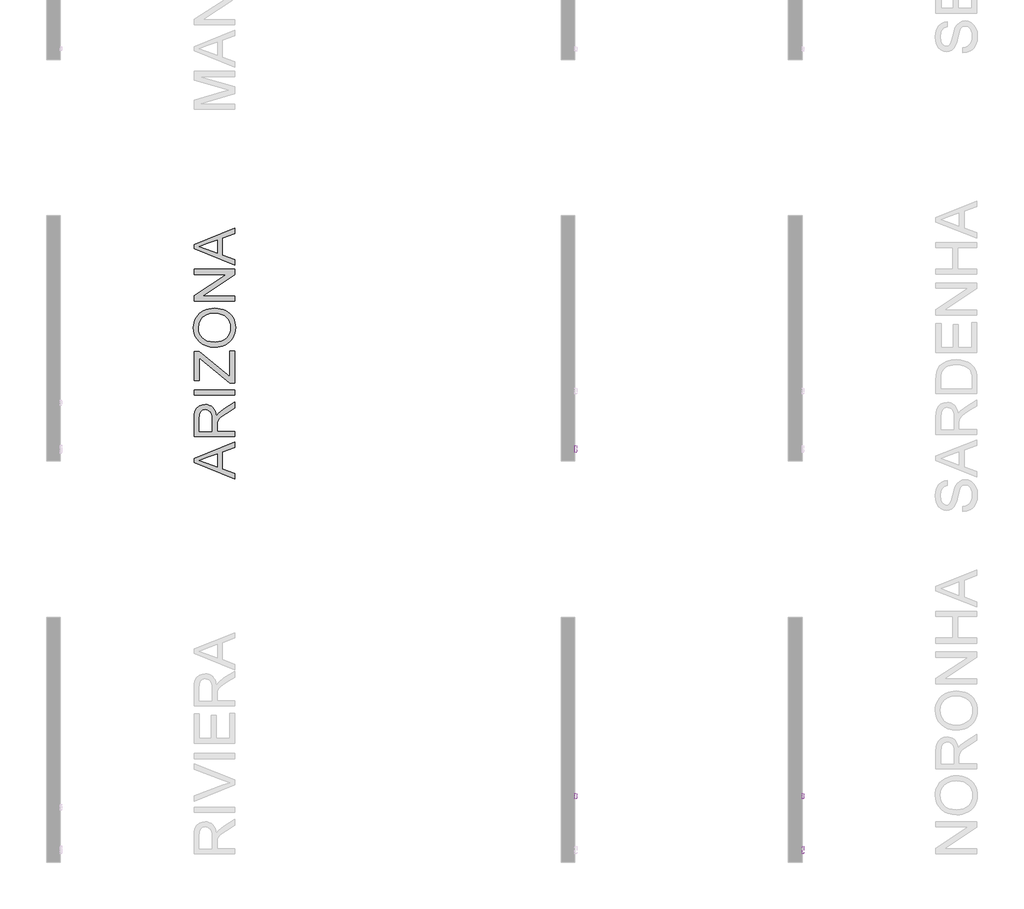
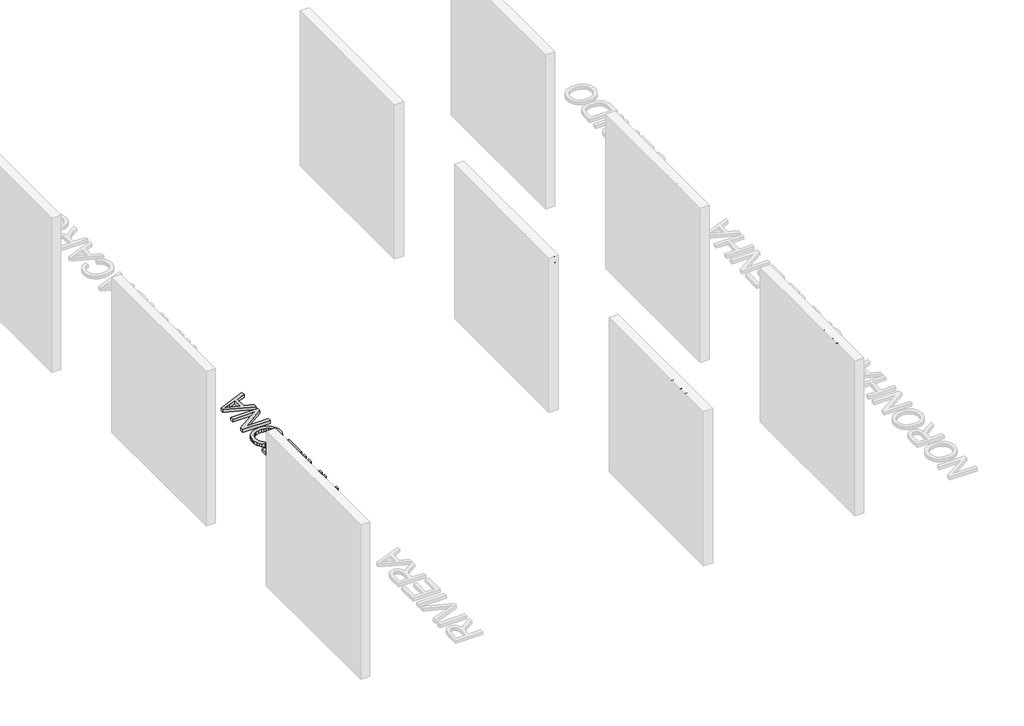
# One storey, part 4 of 11: 5 proxies.
"""IFC4 building model written with IfcOpenShell, lengths in millimetres."""

from ifc_helpers import new_model, si_unit, frame, origin, origin_with_axes, place, context, project, spatial, polyline, outline, extrude, element, save

model = new_model("IFC4")

# Units and contexts
model_context = context("Model", 3, world=origin())
ifc_project = project(units=[si_unit("LENGTHUNIT", "METRE", prefix="MILLI")], contexts=[model_context])

# Site, building, storey
site = spatial("IfcSite", under=ifc_project)
building = spatial("IfcBuilding", under=site)
storey = spatial("IfcBuildingStorey", under=building, Name="PORTOBELLO - SHOWROOM", Elevation=0.0)

# Proxies
placement = place(None, origin())
element("IfcBuildingElementProxy", 1, Name="10mm Arial", ObjectType="10mm Arial", at=placement, inside=storey, context=model_context, shape_type="SweptSolid", body=[
    extrude(outline(polyline([(-7180.0509159, 2478.2261649), (-7180.0509159, 2578.6824751), (-7166.6109603, 2578.6824751), (-7114.1264623, 2499.0973368), (-7114.1264623, 2578.6824751), (-7101.5694236, 2578.6824751), (-7101.5694236, 2478.2261649), (-7115.0093791, 2478.2261649), (-7167.4938771, 2557.8358287), (-7167.4938771, 2478.2261649), (-7180.0509159, 2478.2261649)])), frame((-16783.2092306, 0.0, 0.0), z_axis=(1.0, 0.0, 0.0), x_axis=(0.0, 1.0, 0.0)), (0.0, 0.0, 1.0), 20.0),
    extrude(outline(polyline([(-7084.3034953, 2515.1124663), (-7081.5872999, 2532.8995608), (-7073.4387137, 2545.4014173), (-7063.3710097, 2551.5266525), (-7051.316743, 2553.5683975), (-7038.1251078, 2551.0821284), (-7027.5883543, 2543.6233209), (-7020.6813699, 2531.7805864), (-7018.3790417, 2516.1425359), (-7022.4502691, 2493.7998361), (-7034.3083321, 2481.1569582), (-7051.316743, 2476.6565351), (-7064.6677938, 2479.1336072), (-7075.1922845, 2486.5648235), (-7082.0256926, 2498.6558784), (-7084.3034953, 2515.1124663)]), holes=[polyline([(-7071.7464565, 2515.1369918), (-7070.2933226, 2503.7725038), (-7065.933921, 2495.6760342), (-7059.3733587, 2490.829189), (-7051.316743, 2489.2135739), (-7043.2969155, 2490.838386), (-7036.748616, 2495.7128224), (-7032.3892144, 2503.9165909), (-7030.9360805, 2515.5293992), (-7032.3984114, 2526.5627934), (-7036.7854042, 2534.5488984), (-7043.3429008, 2539.3957437), (-7051.316743, 2541.0113588), (-7059.3733587, 2539.401875), (-7065.933921, 2534.5734239), (-7070.2933226, 2526.4953484), (-7071.7464565, 2515.1369918)])]), frame((-16783.2092306, 0.0, 0.0), z_axis=(1.0, 0.0, 0.0), x_axis=(0.0, 1.0, 0.0)), (0.0, 0.0, 1.0), 20.0),
    extrude(outline(polyline([(-7004.2523731, 2478.2261649), (-7004.2523731, 2551.9987677), (-6993.2649642, 2551.9987677), (-6993.2649642, 2541.0849352), (-6985.4658659, 2551.1403764), (-6977.6177167, 2553.5683975), (-6965.011627, 2549.6933739), (-6969.2054817, 2538.4361848), (-6978.0346496, 2541.0113588), (-6985.1347721, 2538.5342867), (-6989.6597206, 2531.6671561), (-6991.6953343, 2517.0009272), (-6991.6953343, 2478.2261649), (-7004.2523731, 2478.2261649)])), frame((-16783.2092306, 0.0, 0.0), z_axis=(1.0, 0.0, 0.0), x_axis=(0.0, 1.0, 0.0)), (0.0, 0.0, 1.0), 20.0),
    extrude(outline(polyline([(-6960.3027374, 2515.1124663), (-6957.586542, 2532.8995608), (-6949.4379558, 2545.4014173), (-6939.3702519, 2551.5266525), (-6927.3159852, 2553.5683975), (-6914.12435, 2551.0821284), (-6903.5875965, 2543.6233209), (-6896.680612, 2531.7805864), (-6894.3782839, 2516.1425359), (-6898.4495113, 2493.7998361), (-6910.3075743, 2481.1569582), (-6927.3159852, 2476.6565351), (-6940.6670359, 2479.1336072), (-6951.1915267, 2486.5648235), (-6958.0249347, 2498.6558784), (-6960.3027374, 2515.1124663)]), holes=[polyline([(-6947.7456987, 2515.1369918), (-6946.2925648, 2503.7725038), (-6941.9331631, 2495.6760342), (-6935.3726009, 2490.829189), (-6927.3159852, 2489.2135739), (-6919.2961577, 2490.838386), (-6912.7478582, 2495.7128224), (-6908.3884565, 2503.9165909), (-6906.9353227, 2515.5293992), (-6908.3976536, 2526.5627934), (-6912.7846464, 2534.5488984), (-6919.3421429, 2539.3957437), (-6927.3159852, 2541.0113588), (-6935.3726009, 2539.401875), (-6941.9331631, 2534.5734239), (-6946.2925648, 2526.4953484), (-6947.7456987, 2515.1369918)])]), frame((-16783.2092306, 0.0, 0.0), z_axis=(1.0, 0.0, 0.0), x_axis=(0.0, 1.0, 0.0)), (0.0, 0.0, 1.0), 20.0),
    extrude(outline(polyline([(-6880.2516153, 2478.2261649), (-6880.2516153, 2551.9987677), (-6867.6945765, 2551.9987677), (-6867.6945765, 2541.6980718), (-6858.0928564, 2550.6008161), (-6844.9839947, 2553.5683975), (-6833.1259317, 2551.1771646), (-6825.0325278, 2544.8986452), (-6821.2678687, 2535.6648071), (-6820.6056811, 2523.5247013), (-6820.6056811, 2478.2261649), (-6833.1627199, 2478.2261649), (-6833.1627199, 2521.8324441), (-6834.6097224, 2532.9424804), (-6839.7232821, 2538.8163295), (-6848.3439836, 2541.0113588), (-6861.9678801, 2536.08174), (-6866.2629024, 2528.938698), (-6867.6945765, 2517.3688092), (-6867.6945765, 2478.2261649), (-6880.2516153, 2478.2261649)])), frame((-16783.2092306, 0.0, 0.0), z_axis=(1.0, 0.0, 0.0), x_axis=(0.0, 1.0, 0.0)), (0.0, 0.0, 1.0), 20.0),
    extrude(outline(polyline([(-6803.3397528, 2478.2261649), (-6803.3397528, 2578.6824751), (-6790.782714, 2578.6824751), (-6790.782714, 2541.7471228), (-6780.9909216, 2550.6130789), (-6768.9305235, 2553.5683975), (-6754.8283804, 2550.3432987), (-6746.2689926, 2541.4282917), (-6743.6938187, 2524.9226529), (-6743.6938187, 2478.2261649), (-6756.2508574, 2478.2261649), (-6756.2508574, 2523.6228031), (-6760.2485084, 2536.866555), (-6771.5792739, 2541.0113588), (-6781.867707, 2538.2154556), (-6788.7348376, 2530.6370865), (-6790.782714, 2517.4178602), (-6790.782714, 2478.2261649), (-6803.3397528, 2478.2261649)])), frame((-16783.2092306, 0.0, 0.0), z_axis=(1.0, 0.0, 0.0), x_axis=(0.0, 1.0, 0.0)), (0.0, 0.0, 1.0), 20.0),
    extrude(outline(polyline([(-6679.338995, 2487.643944), (-6691.515889, 2479.1336072), (-6704.9681073, 2476.6565351), (-6715.4619412, 2478.1464572), (-6723.2027915, 2482.6162234), (-6727.9760604, 2489.4036462), (-6729.5671501, 2497.846538), (-6727.1636544, 2507.7793519), (-6720.8483468, 2514.989839), (-6712.0559671, 2519.1101173), (-6701.1911855, 2520.9985782), (-6679.4125714, 2525.3150603), (-6679.338995, 2528.1109635), (-6682.7970857, 2537.3815898), (-6696.6784997, 2541.0113588), (-6709.3826912, 2538.5956003), (-6715.4404814, 2530.0239499), (-6727.9975202, 2531.5935797), (-6722.5651294, 2543.8563129), (-6711.6267714, 2551.0422745), (-6695.0598189, 2553.5683975), (-6679.841767, 2551.3365801), (-6671.2455911, 2545.732511), (-6667.3950929, 2537.2099115), (-6666.7819562, 2526.2225026), (-6666.7819562, 2510.5997805), (-6666.1442941, 2488.7843782), (-6663.6426965, 2478.2261649), (-6676.1997353, 2478.2261649), (-6679.338995, 2487.643944)]), holes=[polyline([(-6679.338995, 2512.7580215), (-6699.5970302, 2508.9075233), (-6710.4004981, 2506.8719096), (-6715.2933286, 2503.5609717), (-6717.0101113, 2498.7294548), (-6713.2699777, 2491.9359006), (-6702.2948315, 2489.2135739), (-6689.5906399, 2492.2179435), (-6681.3991342, 2499.4897443), (-6679.4125714, 2509.2018289), (-6679.338995, 2512.7580215)])]), frame((-16783.2092306, 0.0, 0.0), z_axis=(1.0, 0.0, 0.0), x_axis=(0.0, 1.0, 0.0)), (0.0, 0.0, 1.0), 20.0),
])
element("IfcBuildingElementProxy", 2, Name="10mm Arial", ObjectType="10mm Arial", at=placement, inside=storey, context=model_context, shape_type="SweptSolid", body=[
    extrude(outline(polyline([(-2764.7598054, 2512.7580215), (-2752.2027666, 2512.7580215), (-2748.1560647, 2500.18872), (-2738.2723018, 2492.242469), (-2723.2136654, 2489.2135739), (-2710.0925409, 2491.506705), (-2701.6189923, 2497.8097498), (-2698.8353519, 2506.2342475), (-2700.9200165, 2514.070134), (-2709.4548788, 2519.7723049), (-2727.738614, 2524.5670336), (-2747.4203007, 2530.7597138), (-2758.1011413, 2540.1039165), (-2761.6205457, 2552.5873789), (-2757.2672754, 2566.7998866), (-2744.5508211, 2576.8308024), (-2725.9359922, 2580.2521049), (-2706.0703645, 2576.6713868), (-2692.8266126, 2566.1499618), (-2687.847943, 2550.4291379), (-2700.4049817, 2550.4291379), (-2702.7103756, 2557.9216678), (-2707.517367, 2563.3295332), (-2725.4454829, 2567.6950662), (-2743.4226497, 2563.3785841), (-2749.063507, 2552.9552609), (-2745.0658559, 2544.2487203), (-2724.5625661, 2537.234437), (-2702.3424936, 2530.9313921), (-2690.190125, 2520.7533236), (-2686.2783131, 2506.5530786), (-2690.7787362, 2491.5312304), (-2703.7281824, 2480.568347), (-2722.7231561, 2476.6565351), (-2745.1516951, 2480.8749153), (-2759.3396774, 2493.5791069), (-2764.7598054, 2512.7580215)])), frame((-19283.2092306, 0.0, 0.0), z_axis=(1.0, 0.0, 0.0), x_axis=(0.0, 1.0, 0.0)), (0.0, 0.0, 1.0), 20.0),
    extrude(outline(polyline([(-2621.9234894, 2487.643944), (-2634.1003835, 2479.1336072), (-2647.5526018, 2476.6565351), (-2658.0464357, 2478.1464572), (-2665.787286, 2482.6162234), (-2670.5605549, 2489.4036462), (-2672.1516445, 2497.846538), (-2669.7481488, 2507.7793519), (-2663.4328412, 2514.989839), (-2654.6404615, 2519.1101173), (-2643.7756799, 2520.9985782), (-2621.9970658, 2525.3150603), (-2621.9234894, 2528.1109635), (-2625.3815802, 2537.3815898), (-2639.2629941, 2541.0113588), (-2651.9671857, 2538.5956003), (-2658.0249759, 2530.0239499), (-2670.5820147, 2531.5935797), (-2665.1496239, 2543.8563129), (-2654.2112659, 2551.0422745), (-2637.6443134, 2553.5683975), (-2622.4262615, 2551.3365801), (-2613.8300855, 2545.732511), (-2609.9795873, 2537.2099115), (-2609.3664507, 2526.2225026), (-2609.3664507, 2510.5997805), (-2608.7287885, 2488.7843782), (-2606.227191, 2478.2261649), (-2618.7842297, 2478.2261649), (-2621.9234894, 2487.643944)]), holes=[polyline([(-2621.9234894, 2512.7580215), (-2642.1815246, 2508.9075233), (-2652.9849925, 2506.8719096), (-2657.8778231, 2503.5609717), (-2659.5946057, 2498.7294548), (-2655.8544721, 2491.9359006), (-2644.8793259, 2489.2135739), (-2632.1751344, 2492.2179435), (-2623.9836286, 2499.4897443), (-2621.9970658, 2509.2018289), (-2621.9234894, 2512.7580215)])]), frame((-19283.2092306, 0.0, 0.0), z_axis=(1.0, 0.0, 0.0), x_axis=(0.0, 1.0, 0.0)), (0.0, 0.0, 1.0), 20.0),
    extrude(outline(polyline([(-2592.1005223, 2478.2261649), (-2592.1005223, 2551.9987677), (-2581.1131134, 2551.9987677), (-2581.1131134, 2541.0849352), (-2573.3140151, 2551.1403764), (-2565.4658659, 2553.5683975), (-2552.8597762, 2549.6933739), (-2557.0536309, 2538.4361848), (-2565.8827988, 2541.0113588), (-2572.9829213, 2538.5342867), (-2577.5078699, 2531.6671561), (-2579.5434836, 2517.0009272), (-2579.5434836, 2478.2261649), (-2592.1005223, 2478.2261649)])), frame((-19283.2092306, 0.0, 0.0), z_axis=(1.0, 0.0, 0.0), x_axis=(0.0, 1.0, 0.0)), (0.0, 0.0, 1.0), 20.0),
    extrude(outline(polyline([(-2499.4923614, 2478.2261649), (-2499.4923614, 2490.0719652), (-2507.8003632, 2480.0103926), (-2519.2844128, 2476.6565351), (-2534.8335584, 2481.5125774), (-2545.8209674, 2495.0628976), (-2549.7205165, 2515.0388899), (-2546.1275357, 2535.027145), (-2535.360856, 2548.7859316), (-2519.3334637, 2553.5683975), (-2507.7574436, 2550.147095), (-2499.4923614, 2541.2566134), (-2499.4923614, 2578.6824751), (-2486.9353227, 2578.6824751), (-2486.9353227, 2478.2261649), (-2499.4923614, 2478.2261649)]), holes=[polyline([(-2537.1634777, 2515.0879409), (-2535.7471321, 2503.7295842), (-2531.498095, 2495.6515088), (-2525.3238089, 2490.8230576), (-2518.1317159, 2489.2135739), (-2510.9426885, 2490.7494812), (-2504.9247522, 2495.3572032), (-2500.8504591, 2503.122579), (-2499.4923614, 2514.1314477), (-2500.8749846, 2526.1673203), (-2505.0228541, 2534.5121102), (-2511.1940746, 2539.3865466), (-2518.6467506, 2541.0113588), (-2525.91242, 2539.450926), (-2531.865977, 2534.7696276), (-2535.8391026, 2526.7283403), (-2537.1634777, 2515.0879409)])]), frame((-19283.2092306, 0.0, 0.0), z_axis=(1.0, 0.0, 0.0), x_axis=(0.0, 1.0, 0.0)), (0.0, 0.0, 1.0), 20.0),
    extrude(outline(polyline([(-2416.4491324, 2500.2009828), (-2404.1373483, 2498.6313529), (-2408.573392, 2489.3545953), (-2415.6520547, 2482.4200197), (-2425.2139209, 2478.0974062), (-2437.099575, 2476.6565351), (-2451.833249, 2479.1428042), (-2463.1701458, 2486.6016117), (-2470.399027, 2498.5485795), (-2472.808654, 2514.4993297), (-2470.3745015, 2530.9865744), (-2463.0720439, 2543.3167526), (-2451.8884313, 2551.0054863), (-2437.8108136, 2553.5683975), (-2424.1715886, 2551.0116177), (-2413.2730845, 2543.3412781), (-2406.1269767, 2531.0356253), (-2403.7449408, 2514.5729061), (-2403.8185172, 2511.1883917), (-2460.2516153, 2511.1883917), (-2458.0780458, 2501.7890067), (-2453.0288654, 2494.8789566), (-2445.7417363, 2490.6299195), (-2436.8543204, 2489.2135739), (-2424.5425363, 2491.8377988), (-2416.4491324, 2500.2009828)]), holes=[polyline([(-2460.2516153, 2523.7454305), (-2416.3019796, 2523.7454305), (-2421.3297002, 2535.1252469), (-2428.6505519, 2539.5398308), (-2437.8598645, 2541.0113588), (-2453.323171, 2536.314732), (-2458.1884104, 2530.8240932), (-2460.2516153, 2523.7454305)])]), frame((-19283.2092306, 0.0, 0.0), z_axis=(1.0, 0.0, 0.0), x_axis=(0.0, 1.0, 0.0)), (0.0, 0.0, 1.0), 20.0),
    extrude(outline(polyline([(-2391.187902, 2478.2261649), (-2391.187902, 2551.9987677), (-2378.6308633, 2551.9987677), (-2378.6308633, 2541.6980718), (-2369.0291432, 2550.6008161), (-2355.9202814, 2553.5683975), (-2344.0622185, 2551.1771646), (-2335.9688146, 2544.8986452), (-2332.2041555, 2535.6648071), (-2331.5419679, 2523.5247013), (-2331.5419679, 2478.2261649), (-2344.0990067, 2478.2261649), (-2344.0990067, 2521.8324441), (-2345.5460092, 2532.9424804), (-2350.6595689, 2538.8163295), (-2359.2802703, 2541.0113588), (-2372.9041669, 2536.08174), (-2377.1991892, 2528.938698), (-2378.6308633, 2517.3688092), (-2378.6308633, 2478.2261649), (-2391.187902, 2478.2261649)])), frame((-19283.2092306, 0.0, 0.0), z_axis=(1.0, 0.0, 0.0), x_axis=(0.0, 1.0, 0.0)), (0.0, 0.0, 1.0), 20.0),
    extrude(outline(polyline([(-2314.2760396, 2478.2261649), (-2314.2760396, 2578.6824751), (-2301.7190008, 2578.6824751), (-2301.7190008, 2541.7471228), (-2291.9272084, 2550.6130789), (-2279.8668103, 2553.5683975), (-2265.7646672, 2550.3432987), (-2257.2052794, 2541.4282917), (-2254.6301054, 2524.9226529), (-2254.6301054, 2478.2261649), (-2267.1871442, 2478.2261649), (-2267.1871442, 2523.6228031), (-2271.1847952, 2536.866555), (-2282.5155607, 2541.0113588), (-2292.8039938, 2538.2154556), (-2299.6711244, 2530.6370865), (-2301.7190008, 2517.4178602), (-2301.7190008, 2478.2261649), (-2314.2760396, 2478.2261649)])), frame((-19283.2092306, 0.0, 0.0), z_axis=(1.0, 0.0, 0.0), x_axis=(0.0, 1.0, 0.0)), (0.0, 0.0, 1.0), 20.0),
    extrude(outline(polyline([(-2190.2752817, 2487.643944), (-2202.4521758, 2479.1336072), (-2215.9043941, 2476.6565351), (-2226.398228, 2478.1464572), (-2234.1390783, 2482.6162234), (-2238.9123472, 2489.4036462), (-2240.5034368, 2497.846538), (-2238.0999411, 2507.7793519), (-2231.7846335, 2514.989839), (-2222.9922539, 2519.1101173), (-2212.1274723, 2520.9985782), (-2190.3488581, 2525.3150603), (-2190.2752817, 2528.1109635), (-2193.7333725, 2537.3815898), (-2207.6147865, 2541.0113588), (-2220.318978, 2538.5956003), (-2226.3767682, 2530.0239499), (-2238.933807, 2531.5935797), (-2233.5014162, 2543.8563129), (-2222.5630582, 2551.0422745), (-2205.9961057, 2553.5683975), (-2190.7780538, 2551.3365801), (-2182.1818779, 2545.732511), (-2178.3313796, 2537.2099115), (-2177.718243, 2526.2225026), (-2177.718243, 2510.5997805), (-2177.0805809, 2488.7843782), (-2174.5789833, 2478.2261649), (-2187.1360221, 2478.2261649), (-2190.2752817, 2487.643944)]), holes=[polyline([(-2190.2752817, 2512.7580215), (-2210.533317, 2508.9075233), (-2221.3367849, 2506.8719096), (-2226.2296154, 2503.5609717), (-2227.9463981, 2498.7294548), (-2224.2062644, 2491.9359006), (-2213.2311182, 2489.2135739), (-2200.5269267, 2492.2179435), (-2192.3354209, 2499.4897443), (-2190.3488581, 2509.2018289), (-2190.2752817, 2512.7580215)])]), frame((-19283.2092306, 0.0, 0.0), z_axis=(1.0, 0.0, 0.0), x_axis=(0.0, 1.0, 0.0)), (0.0, 0.0, 1.0), 20.0),
])
element("IfcBuildingElementProxy", 3, Name="10mm Arial Narrow", ObjectType="10mm Arial Narrow", at=placement, inside=storey, context=model_context, shape_type="SweptSolid", body=[
    extrude(outline(polyline([(-6577.9158568, 2478.2261649), (-6577.9158568, 2578.9447687), (-6546.6189721, 2578.9447687), (-6530.3232706, 2577.066448), (-6518.8502844, 2567.5860048), (-6514.560606, 2550.566896), (-6516.3469144, 2538.4910704), (-6521.7058396, 2528.8646766), (-6531.4496284, 2522.5634182), (-6546.3905277, 2520.4629988), (-6568.1688951, 2520.4629988), (-6568.1688951, 2478.2261649), (-6577.9158568, 2478.2261649)]), holes=[polyline([(-6568.1688951, 2531.834454), (-6545.1975402, 2531.834454), (-6529.3333448, 2536.3652682), (-6524.3075677, 2550.033859), (-6526.7823821, 2560.1996354), (-6532.760011, 2565.9995852), (-6545.4259846, 2567.5733134), (-6568.1688951, 2567.5733134), (-6568.1688951, 2531.834454)])]), frame((-16783.2092306, 0.0, 0.0), z_axis=(1.0, 0.0, 0.0), x_axis=(0.0, 1.0, 0.0)), (0.0, 0.0, 1.0), 20.0),
    extrude(outline(polyline([(-6506.438138, 2514.7772711), (-6504.4836691, 2531.3680467), (-6498.6202625, 2543.3201315), (-6489.7616958, 2550.5446861), (-6478.8217466, 2552.9528709), (-6468.008711, 2550.5446861), (-6459.1247616, 2543.3201315), (-6453.1852068, 2531.558417), (-6451.2053553, 2515.5387525), (-6453.1503056, 2498.3768659), (-6458.9851567, 2486.2344108), (-6467.8342049, 2479.0098562), (-6478.8217466, 2476.6016713), (-6489.6823748, 2479.0162019), (-6498.5568057, 2486.2597935), (-6504.4678049, 2498.218224), (-6506.438138, 2514.7772711)]), holes=[polyline([(-6496.6911763, 2514.8026538), (-6495.3871394, 2502.2509024), (-6491.4750289, 2493.3796444), (-6485.6338321, 2488.1063858), (-6478.5425368, 2486.348633), (-6471.8224636, 2488.12225), (-6466.1303903, 2493.4431012), (-6462.2468353, 2502.3302234), (-6460.9523169, 2514.8026538), (-6462.2563538, 2527.3163312), (-6466.1684644, 2536.1748979), (-6472.0096611, 2541.4481564), (-6479.1009565, 2543.2059093), (-6485.8686222, 2541.4386379), (-6491.551177, 2536.1368238), (-6495.4061765, 2527.2687386), (-6496.6911763, 2514.8026538)])]), frame((-16783.2092306, 0.0, 0.0), z_axis=(1.0, 0.0, 0.0), x_axis=(0.0, 1.0, 0.0)), (0.0, 0.0, 1.0), 20.0),
    extrude(outline(polyline([(-6379.7276365, 2486.348633), (-6378.1031429, 2476.6016713), (-6385.4641295, 2476.6016713), (-6393.7388938, 2478.7211278), (-6398.053955, 2484.5210777), (-6399.2215598, 2499.1669029), (-6399.2215598, 2541.5814157), (-6407.3440278, 2541.5814157), (-6407.3440278, 2544.8304029), (-6408.9685214, 2539.9569221), (-6416.5325698, 2541.5814157), (-6422.6117295, 2539.2588975), (-6426.4825932, 2532.7736144), (-6428.4624447, 2517.3663078), (-6428.4624447, 2478.2261649), (-6438.2094064, 2478.2261649), (-6438.2094064, 2551.3283773), (-6428.4624447, 2551.3283773), (-6428.4624447, 2541.6321811), (-6422.2182974, 2550.7191922), (-6415.8218538, 2552.9528709), (-6407.3440278, 2551.3283773), (-6399.2215598, 2551.3283773), (-6399.2215598, 2567.5733134), (-6389.4745981, 2575.6957815), (-6389.4745981, 2551.3283773), (-6379.7276365, 2551.3283773), (-6379.7276365, 2541.5814157), (-6389.4745981, 2541.5814157), (-6389.4745981, 2496.9332241), (-6388.6115859, 2488.9376697), (-6383.9919322, 2486.348633), (-6379.7276365, 2486.348633)])), frame((-16783.2092306, 0.0, 0.0), z_axis=(1.0, 0.0, 0.0), x_axis=(0.0, 1.0, 0.0)), (0.0, 0.0, 1.0), 20.0),
    extrude(outline(polyline([(-6373.229662, 2514.7772711), (-6371.2751932, 2531.3680467), (-6365.4117865, 2543.3201315), (-6356.5532198, 2550.5446861), (-6345.6132707, 2552.9528709), (-6334.8002351, 2550.5446861), (-6325.9162857, 2543.3201315), (-6319.9767309, 2531.558417), (-6317.9968793, 2515.5387525), (-6319.9418297, 2498.3768659), (-6325.7766808, 2486.2344108), (-6334.6257289, 2479.0098562), (-6345.6132707, 2476.6016713), (-6356.4738989, 2479.0162019), (-6365.3483298, 2486.2597935), (-6371.259329, 2498.218224), (-6373.229662, 2514.7772711)]), holes=[polyline([(-6363.4827004, 2514.8026538), (-6362.1786635, 2502.2509024), (-6358.2665529, 2493.3796444), (-6352.4253562, 2488.1063858), (-6345.3340608, 2486.348633), (-6338.6139877, 2488.12225), (-6332.9219144, 2493.4431012), (-6329.0383593, 2502.3302234), (-6327.743841, 2514.8026538), (-6329.0478778, 2527.3163312), (-6332.9599884, 2536.1748979), (-6338.8011852, 2541.4481564), (-6345.8924805, 2543.2059093), (-6352.6601463, 2541.4386379), (-6358.3427011, 2536.1368238), (-6362.1977006, 2527.2687386), (-6363.4827004, 2514.8026538)])]), frame((-16783.2092306, 0.0, 0.0), z_axis=(1.0, 0.0, 0.0), x_axis=(0.0, 1.0, 0.0)), (0.0, 0.0, 1.0), 20.0),
    extrude(outline(polyline([(-6295.2539688, 2478.2261649), (-6305.0009305, 2478.2261649), (-6305.0009305, 2578.9447687), (-6295.2539688, 2578.9447687), (-6295.2539688, 2543.5358846), (-6287.8549081, 2550.6176614), (-6278.6536747, 2552.9528709), (-6265.7719481, 2548.752032), (-6256.4945666, 2536.0226016), (-6253.017135, 2515.3356908), (-6254.949394, 2498.8813473), (-6260.746171, 2486.6786082), (-6269.1192933, 2479.1209056), (-6278.7805883, 2476.6016713), (-6288.1214266, 2479.2160907), (-6295.2539688, 2486.9832008), (-6295.2539688, 2478.2261649)]), holes=[polyline([(-6295.2539688, 2515.3356908), (-6293.1725864, 2498.0881376), (-6287.283797, 2489.3564844), (-6278.8313537, 2486.348633), (-6272.8886261, 2488.1381142), (-6267.6502688, 2493.5065579), (-6262.7640966, 2514.9295674), (-6267.4725898, 2536.3652682), (-6272.7172928, 2541.495749), (-6279.0344154, 2543.2059093), (-6285.0120443, 2541.416428), (-6290.3043398, 2536.0479843), (-6295.2539688, 2515.3356908)])]), frame((-16783.2092306, 0.0, 0.0), z_axis=(1.0, 0.0, 0.0), x_axis=(0.0, 1.0, 0.0)), (0.0, 0.0, 1.0), 20.0),
    extrude(outline(polyline([(-6201.0333395, 2500.9690755), (-6191.2863778, 2499.3445819), (-6194.9859082, 2489.4580153), (-6200.8048951, 2482.3381644), (-6208.5085484, 2478.0357946), (-6217.862078, 2476.6016713), (-6229.455632, 2479.0162019), (-6238.5997542, 2486.2597935), (-6244.539309, 2498.0659277), (-6246.5191605, 2514.168086), (-6244.5297904, 2530.8350097), (-6238.5616801, 2543.0155389), (-6229.5476443, 2550.4685379), (-6218.4204976, 2552.9528709), (-6207.7375485, 2550.5542046), (-6198.9900311, 2543.3582056), (-6193.1551801, 2531.618701), (-6191.2102297, 2515.5895179), (-6191.2863778, 2512.3405307), (-6236.7721989, 2512.3405307), (-6230.7691873, 2492.8973728), (-6224.8391511, 2487.9858179), (-6217.7351644, 2486.348633), (-6207.5566966, 2490.0037436), (-6201.0333395, 2500.9690755)]), holes=[polyline([(-6236.1122484, 2522.0874924), (-6201.0333395, 2522.0874924), (-6205.2976352, 2536.3525769), (-6211.1229678, 2541.4925762), (-6218.3443495, 2543.2059093), (-6230.5534343, 2537.4947989), (-6236.1122484, 2522.0874924)])]), frame((-16783.2092306, 0.0, 0.0), z_axis=(1.0, 0.0, 0.0), x_axis=(0.0, 1.0, 0.0)), (0.0, 0.0, 1.0), 20.0),
    extrude(outline(polyline([(-16763.2092306, -6168.5434673), (-16763.2092306, -6178.290429), (-16783.2092306, -6178.290429), (-16783.2092306, -6168.5434673), (-16763.2092306, -6168.5434673)])), frame((0.0, 0.0, 2478.2261649), z_axis=(0.0, 0.0, 1.0), x_axis=(1.0, 0.0, 0.0)), (0.0, 0.0, 1.0), 100.7186038),
    extrude(outline(polyline([(-16763.2092306, -6142.5515696), (-16763.2092306, -6152.2985312), (-16783.2092306, -6152.2985312), (-16783.2092306, -6142.5515696), (-16763.2092306, -6142.5515696)])), frame((0.0, 0.0, 2478.2261649), z_axis=(0.0, 0.0, 1.0), x_axis=(1.0, 0.0, 0.0)), (0.0, 0.0, 1.0), 100.7186038),
    extrude(outline(polyline([(-6131.1801143, 2514.7772711), (-6129.2256454, 2531.3680467), (-6123.3622388, 2543.3201315), (-6114.5036721, 2550.5446861), (-6103.563723, 2552.9528709), (-6092.7506874, 2550.5446861), (-6083.8667379, 2543.3201315), (-6077.9271832, 2531.558417), (-6075.9473316, 2515.5387525), (-6077.892282, 2498.3768659), (-6083.727133, 2486.2344108), (-6092.5761812, 2479.0098562), (-6103.563723, 2476.6016713), (-6114.4243511, 2479.0162019), (-6123.298782, 2486.2597935), (-6129.2097812, 2498.218224), (-6131.1801143, 2514.7772711)]), holes=[polyline([(-6121.4331527, 2514.8026538), (-6120.1291158, 2502.2509024), (-6116.2170052, 2493.3796444), (-6110.3758085, 2488.1063858), (-6103.2845131, 2486.348633), (-6096.5644399, 2488.12225), (-6090.8723666, 2493.4431012), (-6086.9888116, 2502.3302234), (-6085.6942933, 2514.8026538), (-6086.9983301, 2527.3163312), (-6090.9104407, 2536.1748979), (-6096.7516374, 2541.4481564), (-6103.8429328, 2543.2059093), (-6110.6105985, 2541.4386379), (-6116.2931533, 2536.1368238), (-6120.1481528, 2527.2687386), (-6121.4331527, 2514.8026538)])]), frame((-16783.2092306, 0.0, 0.0), z_axis=(1.0, 0.0, 0.0), x_axis=(0.0, 1.0, 0.0)), (0.0, 0.0, 1.0), 20.0),
])
element("IfcBuildingElementProxy", 4, Name="10mm Arial Narrow", ObjectType="10mm Arial Narrow", at=placement, inside=storey, context=model_context, shape_type="SweptSolid", body=[
    extrude(outline(polyline([(-6577.9158568, 2478.2261649), (-6577.9158568, 2578.9447687), (-6546.6189721, 2578.9447687), (-6530.3232706, 2577.066448), (-6518.8502844, 2567.5860048), (-6514.560606, 2550.566896), (-6516.3469144, 2538.4910704), (-6521.7058396, 2528.8646766), (-6531.4496284, 2522.5634182), (-6546.3905277, 2520.4629988), (-6568.1688951, 2520.4629988), (-6568.1688951, 2478.2261649), (-6577.9158568, 2478.2261649)]), holes=[polyline([(-6568.1688951, 2531.834454), (-6545.1975402, 2531.834454), (-6529.3333448, 2536.3652682), (-6524.3075677, 2550.033859), (-6526.7823821, 2560.1996354), (-6532.760011, 2565.9995852), (-6545.4259846, 2567.5733134), (-6568.1688951, 2567.5733134), (-6568.1688951, 2531.834454)])]), frame((-19283.2092306, 0.0, 0.0), z_axis=(1.0, 0.0, 0.0), x_axis=(0.0, 1.0, 0.0)), (0.0, 0.0, 1.0), 20.0),
    extrude(outline(polyline([(-6506.438138, 2514.7772711), (-6504.4836691, 2531.3680467), (-6498.6202625, 2543.3201315), (-6489.7616958, 2550.5446861), (-6478.8217466, 2552.9528709), (-6468.008711, 2550.5446861), (-6459.1247616, 2543.3201315), (-6453.1852068, 2531.558417), (-6451.2053553, 2515.5387525), (-6453.1503056, 2498.3768659), (-6458.9851567, 2486.2344108), (-6467.8342049, 2479.0098562), (-6478.8217466, 2476.6016713), (-6489.6823748, 2479.0162019), (-6498.5568057, 2486.2597935), (-6504.4678049, 2498.218224), (-6506.438138, 2514.7772711)]), holes=[polyline([(-6496.6911763, 2514.8026538), (-6495.3871395, 2502.2509024), (-6491.4750289, 2493.3796444), (-6485.6338321, 2488.1063858), (-6478.5425368, 2486.348633), (-6471.8224636, 2488.12225), (-6466.1303903, 2493.4431012), (-6462.2468353, 2502.3302234), (-6460.9523169, 2514.8026538), (-6462.2563538, 2527.3163312), (-6466.1684644, 2536.1748979), (-6472.0096611, 2541.4481564), (-6479.1009565, 2543.2059093), (-6485.8686222, 2541.4386379), (-6491.551177, 2536.1368238), (-6495.4061765, 2527.2687386), (-6496.6911763, 2514.8026538)])]), frame((-19283.2092306, 0.0, 0.0), z_axis=(1.0, 0.0, 0.0), x_axis=(0.0, 1.0, 0.0)), (0.0, 0.0, 1.0), 20.0),
    extrude(outline(polyline([(-6379.7276365, 2486.348633), (-6378.1031429, 2476.6016713), (-6385.4641295, 2476.6016713), (-6393.7388938, 2478.7211278), (-6398.053955, 2484.5210777), (-6399.2215598, 2499.1669029), (-6399.2215598, 2541.5814157), (-6407.3440278, 2541.5814157), (-6407.3440278, 2544.8304029), (-6408.9685214, 2539.9569221), (-6416.5325698, 2541.5814157), (-6422.6117295, 2539.2588975), (-6426.4825932, 2532.7736144), (-6428.4624447, 2517.3663078), (-6428.4624447, 2478.2261649), (-6438.2094064, 2478.2261649), (-6438.2094064, 2551.3283773), (-6428.4624447, 2551.3283773), (-6428.4624447, 2541.6321811), (-6422.2182974, 2550.7191922), (-6415.8218538, 2552.9528709), (-6407.3440278, 2551.3283773), (-6399.2215598, 2551.3283773), (-6399.2215598, 2567.5733134), (-6389.4745981, 2575.6957815), (-6389.4745981, 2551.3283773), (-6379.7276365, 2551.3283773), (-6379.7276365, 2541.5814157), (-6389.4745981, 2541.5814157), (-6389.4745981, 2496.9332241), (-6388.6115859, 2488.9376697), (-6383.9919322, 2486.348633), (-6379.7276365, 2486.348633)])), frame((-19283.2092306, 0.0, 0.0), z_axis=(1.0, 0.0, 0.0), x_axis=(0.0, 1.0, 0.0)), (0.0, 0.0, 1.0), 20.0),
    extrude(outline(polyline([(-6373.229662, 2514.7772711), (-6371.2751932, 2531.3680467), (-6365.4117865, 2543.3201315), (-6356.5532198, 2550.5446861), (-6345.6132707, 2552.9528709), (-6334.8002351, 2550.5446861), (-6325.9162857, 2543.3201315), (-6319.9767309, 2531.558417), (-6317.9968793, 2515.5387525), (-6319.9418297, 2498.3768659), (-6325.7766808, 2486.2344108), (-6334.6257289, 2479.0098562), (-6345.6132707, 2476.6016713), (-6356.4738989, 2479.0162019), (-6365.3483298, 2486.2597935), (-6371.259329, 2498.218224), (-6373.229662, 2514.7772711)]), holes=[polyline([(-6363.4827004, 2514.8026538), (-6362.1786635, 2502.2509024), (-6358.2665529, 2493.3796444), (-6352.4253562, 2488.1063858), (-6345.3340608, 2486.348633), (-6338.6139877, 2488.12225), (-6332.9219144, 2493.4431012), (-6329.0383593, 2502.3302234), (-6327.743841, 2514.8026538), (-6329.0478778, 2527.3163312), (-6332.9599884, 2536.1748979), (-6338.8011852, 2541.4481564), (-6345.8924805, 2543.2059093), (-6352.6601463, 2541.4386379), (-6358.3427011, 2536.1368238), (-6362.1977006, 2527.2687386), (-6363.4827004, 2514.8026538)])]), frame((-19283.2092306, 0.0, 0.0), z_axis=(1.0, 0.0, 0.0), x_axis=(0.0, 1.0, 0.0)), (0.0, 0.0, 1.0), 20.0),
    extrude(outline(polyline([(-6295.2539688, 2478.2261649), (-6305.0009305, 2478.2261649), (-6305.0009305, 2578.9447687), (-6295.2539688, 2578.9447687), (-6295.2539688, 2543.5358846), (-6287.8549081, 2550.6176614), (-6278.6536747, 2552.9528709), (-6265.7719481, 2548.752032), (-6256.4945666, 2536.0226016), (-6253.017135, 2515.3356908), (-6254.949394, 2498.8813473), (-6260.746171, 2486.6786082), (-6269.1192933, 2479.1209056), (-6278.7805883, 2476.6016713), (-6288.1214266, 2479.2160907), (-6295.2539688, 2486.9832008), (-6295.2539688, 2478.2261649)]), holes=[polyline([(-6295.2539688, 2515.3356908), (-6293.1725864, 2498.0881376), (-6287.283797, 2489.3564844), (-6278.8313537, 2486.348633), (-6272.8886261, 2488.1381142), (-6267.6502688, 2493.5065579), (-6262.7640966, 2514.9295674), (-6267.4725898, 2536.3652682), (-6272.7172928, 2541.495749), (-6279.0344154, 2543.2059093), (-6285.0120443, 2541.416428), (-6290.3043398, 2536.0479843), (-6295.2539688, 2515.3356908)])]), frame((-19283.2092306, 0.0, 0.0), z_axis=(1.0, 0.0, 0.0), x_axis=(0.0, 1.0, 0.0)), (0.0, 0.0, 1.0), 20.0),
    extrude(outline(polyline([(-6201.0333395, 2500.9690755), (-6191.2863778, 2499.3445819), (-6194.9859082, 2489.4580153), (-6200.8048951, 2482.3381644), (-6208.5085484, 2478.0357946), (-6217.862078, 2476.6016713), (-6229.455632, 2479.0162019), (-6238.5997542, 2486.2597935), (-6244.539309, 2498.0659277), (-6246.5191605, 2514.168086), (-6244.5297904, 2530.8350097), (-6238.5616801, 2543.0155389), (-6229.5476443, 2550.4685379), (-6218.4204976, 2552.9528709), (-6207.7375485, 2550.5542046), (-6198.9900311, 2543.3582056), (-6193.1551801, 2531.618701), (-6191.2102297, 2515.5895179), (-6191.2863778, 2512.3405307), (-6236.7721989, 2512.3405307), (-6230.7691873, 2492.8973728), (-6224.8391511, 2487.9858179), (-6217.7351644, 2486.348633), (-6207.5566966, 2490.0037436), (-6201.0333395, 2500.9690755)]), holes=[polyline([(-6236.1122484, 2522.0874924), (-6201.0333395, 2522.0874924), (-6205.2976352, 2536.3525769), (-6211.1229678, 2541.4925762), (-6218.3443495, 2543.2059093), (-6230.5534343, 2537.4947989), (-6236.1122484, 2522.0874924)])]), frame((-19283.2092306, 0.0, 0.0), z_axis=(1.0, 0.0, 0.0), x_axis=(0.0, 1.0, 0.0)), (0.0, 0.0, 1.0), 20.0),
    extrude(outline(polyline([(-19263.2092306, -6168.5434673), (-19263.2092306, -6178.290429), (-19283.2092306, -6178.290429), (-19283.2092306, -6168.5434673), (-19263.2092306, -6168.5434673)])), frame((0.0, 0.0, 2478.2261649), z_axis=(0.0, 0.0, 1.0), x_axis=(1.0, 0.0, 0.0)), (0.0, 0.0, 1.0), 100.7186038),
    extrude(outline(polyline([(-19263.2092306, -6142.5515696), (-19263.2092306, -6152.2985312), (-19283.2092306, -6152.2985312), (-19283.2092306, -6142.5515696), (-19263.2092306, -6142.5515696)])), frame((0.0, 0.0, 2478.2261649), z_axis=(0.0, 0.0, 1.0), x_axis=(1.0, 0.0, 0.0)), (0.0, 0.0, 1.0), 100.7186038),
    extrude(outline(polyline([(-6131.1801143, 2514.7772711), (-6129.2256454, 2531.3680467), (-6123.3622388, 2543.3201315), (-6114.5036721, 2550.5446861), (-6103.563723, 2552.9528709), (-6092.7506874, 2550.5446861), (-6083.8667379, 2543.3201315), (-6077.9271832, 2531.558417), (-6075.9473316, 2515.5387525), (-6077.892282, 2498.3768659), (-6083.727133, 2486.2344108), (-6092.5761812, 2479.0098562), (-6103.563723, 2476.6016713), (-6114.4243511, 2479.0162019), (-6123.298782, 2486.2597935), (-6129.2097812, 2498.218224), (-6131.1801143, 2514.7772711)]), holes=[polyline([(-6121.4331527, 2514.8026538), (-6120.1291158, 2502.2509024), (-6116.2170052, 2493.3796444), (-6110.3758085, 2488.1063858), (-6103.2845131, 2486.348633), (-6096.5644399, 2488.12225), (-6090.8723666, 2493.4431012), (-6086.9888116, 2502.3302234), (-6085.6942933, 2514.8026538), (-6086.9983301, 2527.3163312), (-6090.9104407, 2536.1748979), (-6096.7516374, 2541.4481564), (-6103.8429328, 2543.2059093), (-6110.6105986, 2541.4386379), (-6116.2931533, 2536.1368238), (-6120.1481528, 2527.2687386), (-6121.4331527, 2514.8026538)])]), frame((-19283.2092306, 0.0, 0.0), z_axis=(1.0, 0.0, 0.0), x_axis=(0.0, 1.0, 0.0)), (0.0, 0.0, 1.0), 20.0),
])
element("IfcBuildingElementProxy", 5, Name="450mm Arial", ObjectType="450mm Arial", at=placement, inside=storey, context=model_context, shape_type="SweptSolid", body=[
    extrude(outline(polyline([(-23024.8078378, -3053.5938218), (-23474.4639806, -2874.1046144), (-23474.4639806, -2826.2408257), (-23024.8078378, -2646.7516183), (-23024.8078378, -2706.1422368), (-23165.3253824, -2757.6287434), (-23165.3253824, -2942.826476), (-23024.8078378, -2994.2032033), (-23024.8078378, -3053.5938218)]), holes=[polyline([(-23221.5324003, -2922.1879617), (-23221.5324003, -2778.1574784), (-23332.0801874, -2818.6660518), (-23418.2569628, -2850.17272), (-23341.7407686, -2878.1664496), (-23221.5324003, -2922.1879617)])]), origin_with_axes(), (0.0, 0.0, 1.0), 50.0),
    extrude(outline(polyline([(-23024.8078378, -2586.7023239), (-23474.4639806, -2586.7023239), (-23474.4639806, -2392.9418033), (-23471.4313266, -2340.8652328), (-23462.3333645, -2302.977641), (-23445.5371267, -2275.2858045), (-23419.4096458, -2253.7965003), (-23387.0110205, -2240.0054718), (-23351.4013498, -2235.4084623), (-23328.3065228, -2237.3124476), (-23307.1053894, -2243.0244034), (-23287.7979494, -2252.5443298), (-23270.3842029, -2265.8722268), (-23255.4199078, -2283.1796246), (-23243.4608218, -2304.6380534), (-23234.5069451, -2330.2475131), (-23228.5582775, -2360.0080038), (-23204.5166039, -2328.0622183), (-23146.6628961, -2282.5037956), (-23024.8078378, -2207.524512), (-23024.8078378, -2272.8432144), (-23118.0104905, -2331.3555982), (-23179.7064749, -2373.6206409), (-23197.6965629, -2389.3328078), (-23208.8528875, -2403.3159502), (-23219.5563723, -2430.0472175), (-23221.5324003, -2462.651679), (-23221.5324003, -2530.495306), (-23024.8078378, -2530.495306), (-23024.8078378, -2586.7023239)]), holes=[polyline([(-23277.7394182, -2530.495306), (-23277.7394182, -2404.6881918), (-23279.7291685, -2368.5570693), (-23285.6984197, -2340.5221724), (-23296.0451217, -2319.4170959), (-23311.1672247, -2304.0754343), (-23329.4592058, -2294.7304687), (-23349.3155424, -2291.6154801), (-23363.6897737, -2293.1009317), (-23376.7329306, -2297.5572865), (-23398.8260211, -2315.3827055), (-23407.3270581, -2328.991912), (-23413.3992274, -2346.0523063), (-23418.2569628, -2390.526658), (-23418.2569628, -2530.495306), (-23277.7394182, -2530.495306)])]), origin_with_axes(), (0.0, 0.0, 1.0), 50.0),
    extrude(outline(polyline([(-23024.8078378, -2130.0203038), (-23474.4639806, -2130.0203038), (-23474.4639806, -2073.813286), (-23024.8078378, -2073.813286), (-23024.8078378, -2130.0203038)])), origin_with_axes(), (0.0, 0.0, 1.0), 50.0),
    extrude(outline(polyline([(-23024.8078378, -1996.5286364), (-23083.100663, -1996.5286364), (-23364.6846489, -1766.5409364), (-23418.2569628, -1722.8487624), (-23418.2569628, -1968.4251275), (-23474.4639806, -1968.4251275), (-23474.4639806, -1652.2606521), (-23418.2569628, -1652.2606521), (-23110.1063786, -1903.9846598), (-23081.0148557, -1927.6969954), (-23081.0148557, -1645.2347748), (-23024.8078378, -1645.2347748), (-23024.8078378, -1996.5286364)])), origin_with_axes(), (0.0, 0.0, 1.0), 50.0),
    extrude(outline(polyline([(-23243.7078253, -1603.0795114), (-23296.449933, -1599.3332918), (-23343.140455, -1588.0946327), (-23383.7793914, -1569.3635342), (-23418.3667421, -1543.1399963), (-23445.9831053, -1510.9952357), (-23465.7090789, -1474.5004691), (-23477.5446631, -1433.6556965), (-23481.4898579, -1388.4609179), (-23479.6373316, -1358.2098508), (-23474.079753, -1329.4819719), (-23464.8171219, -1302.2772813), (-23451.8494383, -1276.5957788), (-23435.5677912, -1253.1578915), (-23416.3632693, -1232.6840461), (-23394.2358728, -1215.1742427), (-23369.1856015, -1200.6284813), (-23341.7819358, -1189.1977084), (-23312.594356, -1181.0328706), (-23281.622862, -1176.1339679), (-23248.8674539, -1174.5010003), (-23215.6797897, -1176.219733), (-23184.289762, -1181.375931), (-23154.6973709, -1189.9695943), (-23126.9026163, -1202.0007229), (-23101.6396476, -1217.1845767), (-23079.642614, -1235.2364156), (-23060.9115155, -1256.1562395), (-23045.4463522, -1279.9440485), (-23033.3431809, -1305.6632875), (-23024.6980585, -1332.3774018), (-23019.5109851, -1360.0863912), (-23017.7819606, -1388.7902559), (-23019.6928071, -1419.569636), (-23025.4253466, -1448.6748814), (-23034.979579, -1476.1059919), (-23048.3555045, -1501.8629676), (-23065.0351017, -1525.2734101), (-23084.5003495, -1545.6649209), (-23106.7512478, -1563.0375002), (-23131.7877966, -1577.3911478), (-23158.604829, -1588.6298069), (-23186.1971779, -1596.6574205), (-23214.5648433, -1601.4739887), (-23243.7078253, -1603.0795114)]), holes=[polyline([(-23243.1589287, -1546.8724936), (-23205.8957067, -1544.0628288), (-23172.8178218, -1535.6338345), (-23143.925274, -1521.5855106), (-23119.2180631, -1501.9178572), (-23099.4303386, -1478.0099772), (-23085.2962496, -1451.2409732), (-23076.8157962, -1421.6108455), (-23073.9889784, -1389.1195939), (-23076.8432411, -1356.0725844), (-23085.4060289, -1326.092535), (-23099.6773421, -1299.1794457), (-23119.6571804, -1275.3333165), (-23144.8858431, -1255.8097485), (-23174.9036291, -1241.8643428), (-23209.7105385, -1233.4970993), (-23249.3065712, -1230.7080182), (-23299.0640533, -1235.4834191), (-23342.0701066, -1249.8096219), (-23377.24066, -1273.3161213), (-23403.4916427, -1305.6324121), (-23419.8350407, -1344.6177973), (-23425.28284, -1388.1315799), (-23422.6584279, -1419.4941627), (-23414.7851914, -1448.5925469), (-23401.6631307, -1475.4267323), (-23383.2922456, -1499.9967189), (-23358.7874404, -1520.5048704), (-23327.2636192, -1535.1535499), (-23288.7207819, -1543.9427577), (-23243.1589287, -1546.8724936)])]), origin_with_axes(), (0.0, 0.0, 1.0), 50.0),
    extrude(outline(polyline([(-23024.8078378, -1097.2163508), (-23474.4639806, -1097.2163508), (-23474.4639806, -1037.057277), (-23118.2300491, -802.1295071), (-23474.4639806, -802.1295071), (-23474.4639806, -745.9224892), (-23024.8078378, -745.9224892), (-23024.8078378, -806.081563), (-23381.1515487, -1041.0093329), (-23024.8078378, -1041.0093329), (-23024.8078378, -1097.2163508)])), origin_with_axes(), (0.0, 0.0, 1.0), 50.0),
    extrude(outline(polyline([(-23024.8078378, -699.9249492), (-23474.4639806, -520.4357418), (-23474.4639806, -472.5719532), (-23024.8078378, -293.0827458), (-23024.8078378, -352.4733642), (-23165.3253824, -403.9598708), (-23165.3253824, -589.1576035), (-23024.8078378, -640.5343307), (-23024.8078378, -699.9249492)]), holes=[polyline([(-23221.5324003, -568.5190891), (-23221.5324003, -424.4886059), (-23332.0801874, -464.9971793), (-23418.2569628, -496.5038475), (-23341.7407686, -524.4975771), (-23221.5324003, -568.5190891)])]), origin_with_axes(), (0.0, 0.0, 1.0), 50.0),
])

save(model, "model.ifc")
